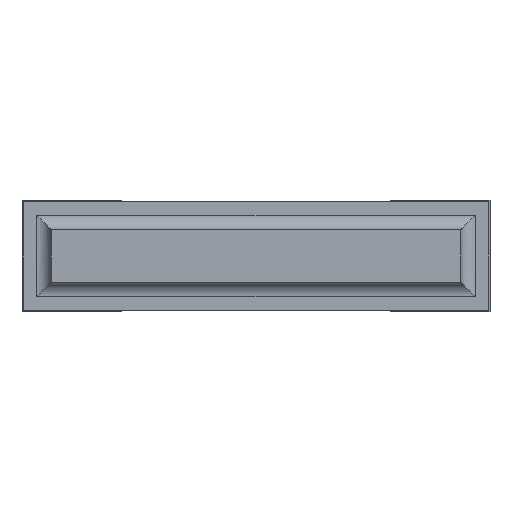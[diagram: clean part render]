
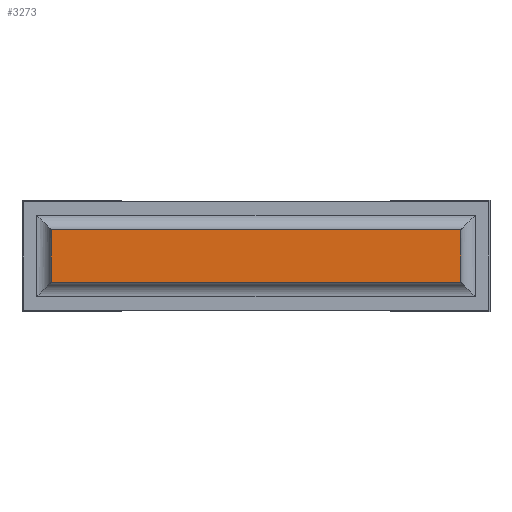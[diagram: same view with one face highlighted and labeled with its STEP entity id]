
A CAD part, front view. The second image highlights one B-rep face of the part: STEP entity #3273.
In plain terms, the highlighted planar face has unit normal (0, -1, 0).
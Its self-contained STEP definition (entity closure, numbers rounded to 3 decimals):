
#247=FACE_OUTER_BOUND('',#452,.T.);
#452=EDGE_LOOP('',(#2647,#2648,#2649,#2650));
#757=LINE('',#5044,#1169);
#760=LINE('',#5054,#1172);
#772=LINE('',#5081,#1184);
#774=LINE('',#5085,#1186);
#1169=VECTOR('',#4137,10.);
#1172=VECTOR('',#4148,10.);
#1184=VECTOR('',#4172,10.);
#1186=VECTOR('',#4178,10.);
#1517=VERTEX_POINT('',#5041);
#1518=VERTEX_POINT('',#5043);
#1521=VERTEX_POINT('',#5053);
#1530=VERTEX_POINT('',#5080);
#1901=EDGE_CURVE('',#1518,#1517,#757,.T.);
#1906=EDGE_CURVE('',#1521,#1517,#760,.T.);
#1920=EDGE_CURVE('',#1518,#1530,#772,.T.);
#1922=EDGE_CURVE('',#1530,#1521,#774,.T.);
#2647=ORIENTED_EDGE('',*,*,#1922,.F.);
#2648=ORIENTED_EDGE('',*,*,#1920,.F.);
#2649=ORIENTED_EDGE('',*,*,#1901,.T.);
#2650=ORIENTED_EDGE('',*,*,#1906,.F.);
#3081=PLANE('',#3535);
#3273=ADVANCED_FACE('',(#247),#3081,.T.);
#3535=AXIS2_PLACEMENT_3D('',#5086,#4179,#4180);
#4137=DIRECTION('',(0.,0.,-1.));
#4148=DIRECTION('',(-1.,0.,0.));
#4172=DIRECTION('',(1.,0.,0.));
#4178=DIRECTION('',(0.,0.,-1.));
#4179=DIRECTION('center_axis',(0.,-1.,0.));
#4180=DIRECTION('ref_axis',(0.,0.,-1.));
#5041=CARTESIAN_POINT('',(0.1,0.,0.1));
#5043=CARTESIAN_POINT('',(0.1,0.,0.28));
#5044=CARTESIAN_POINT('',(0.1,0.,0.28));
#5053=CARTESIAN_POINT('',(1.5,0.,0.1));
#5054=CARTESIAN_POINT('',(1.5,0.,0.1));
#5080=CARTESIAN_POINT('',(1.5,0.,0.28));
#5081=CARTESIAN_POINT('',(0.1,0.,0.28));
#5085=CARTESIAN_POINT('',(1.5,0.,0.28));
#5086=CARTESIAN_POINT('Origin',(1.5,0.,0.19));
